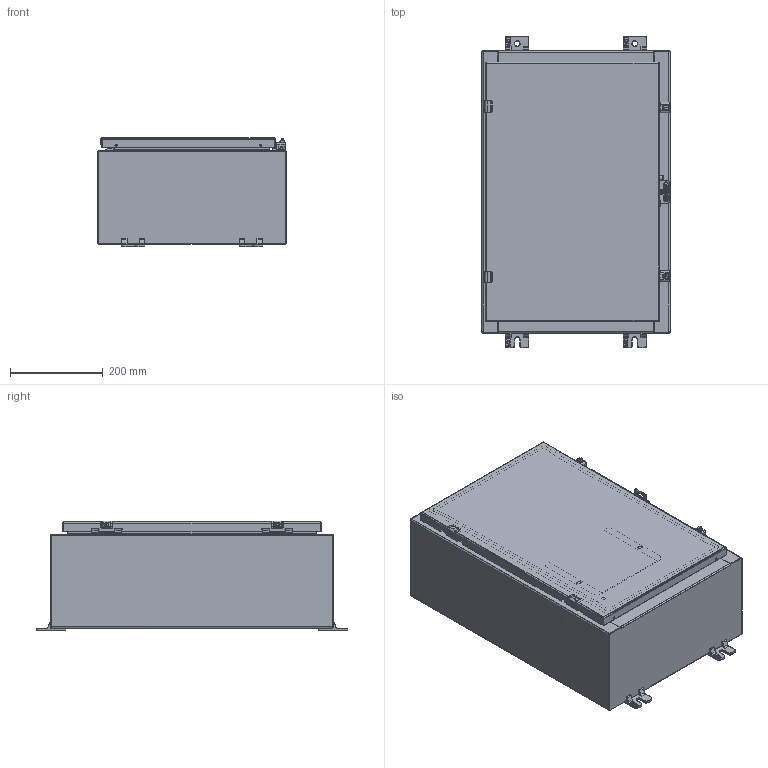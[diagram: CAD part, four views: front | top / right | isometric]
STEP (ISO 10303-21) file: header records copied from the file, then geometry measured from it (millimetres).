
FILE_DESCRIPTION((''),'2;1');
FILE_NAME('MODEL-309_ASM','2024-09-26T13:11:26',('richards'),('SAGINAW CONTROL & ENGINEERING'),'CREO PARAMETRIC BY PTC INC, 2021284','CREO PARAMETRIC BY PTC INC, 2021284','');
FILE_SCHEMA(('AUTOMOTIVE_DESIGN { 1 0 10303 214 1 1 1 1 }'));
Length unit declared in the file: inch
Products named in the file (35): MODEL-309-BDY; MODEL-309-TP; MODEL-309-BTM; MODEL-309-DR; 100837; 100882; 111541; MODEL-309-DOOR-GASKET; 126391; 126391_ASM; 126393; 102483; 101226; 101376; 102140; 115117; MODEL-309-DOOR-ASSY_ASM; 128630; 100059; 128630_ASM; 100921; 128631; 128631_ASM; 101653; 121452; 120132_BASE; 120132_CLAMP; 120132_SCREW; 120132_SPRING; 120132_ASM; 120133; SUBPANEL; 100904; SUBPANEL-SUBASSEMBLY_ASM; MODEL-309_ASM
Assembly tree (65 placements, depth 4):
  MODEL-309_ASM
    MODEL-309-BDY
    MODEL-309-TP
    MODEL-309-BTM
    MODEL-309-DOOR-ASSY_ASM
      MODEL-309-DR
      100837  x3
      100882  x2
      111541
      MODEL-309-DOOR-GASKET
      126391_ASM  x2
        126391
      126393  x2
      102483  x7
      101226  x2
      101376  x2
      102140  x2
      115117
    128630_ASM  x2
      128630
      100059
    100921  x4
    128631_ASM  x2
      128631
      100059
    100837
    101653  x4
    121452
    120132_ASM  x2
      120132_BASE
      120132_CLAMP
      120132_SCREW
      120132_SPRING
    100882  x3
    120133
    SUBPANEL-SUBASSEMBLY_ASM
      SUBPANEL
      100904  x4
Bounding box: 406.4 x 673.1 x 237.31 mm (x, y, z)
Volume: 2893168.3 mm3; surface area: 2642094.7 mm2
Topology: 65 solids, 65 shells, 4738 faces, 12123 edges, 7604 vertices
Faces by surface type: plane 1733, cylinder 1297, bspline 941, torus 526, cone 140, sphere 101
Entity records: 113647 total; most frequent: CARTESIAN_POINT 35871, ORIENTED_EDGE 11508, DIRECTION 11110, PRESENTATION_STYLE_ASSIGNMENT 5887, STYLED_ITEM 5887, CURVE_STYLE 5754, EDGE_CURVE 5754, AXIS2_PLACEMENT_3D 4135
